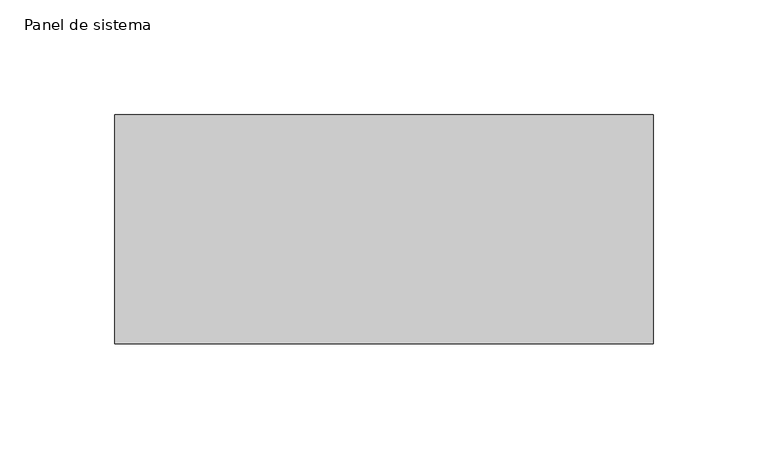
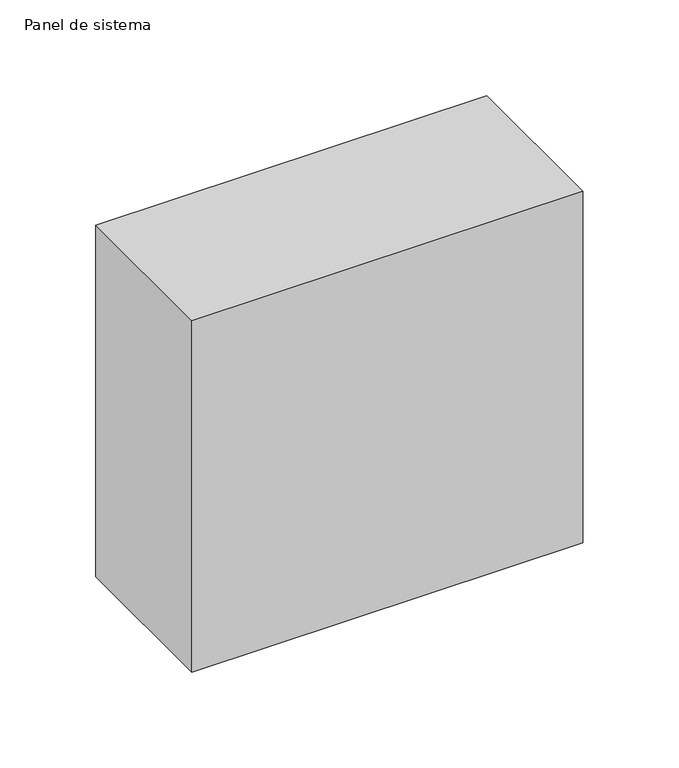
"""IFC4 building model written with IfcOpenShell, lengths in millimetres: plate geometry, Panel de sistema : PAVES."""

from ifc_helpers import new_model, si_unit, origin, origin_with_axes, place, context, project, spatial, polyline, outline, extrude, source, transform, mapped, element, save


def panel_de_sistema_f5b48c68(model_context):
    return source(origin(), model_context, "Body", "SweptSolid", [
        extrude(outline(polyline([(117.5, -50.0), (-117.5, -50.0), (-117.5, 50.0), (117.5, 50.0), (117.5, -50.0)])), origin_with_axes(), (0.0, 0.0, 1.0), 223.3333333),
    ])


if __name__ == "__main__":
    model = new_model("IFC4")
    model_context = context("Model", 3, world=origin())
    ifc_project = project(units=[si_unit("LENGTHUNIT", "METRE", prefix="MILLI")], contexts=[model_context])
    site = spatial("IfcSite", under=ifc_project)
    building = spatial("IfcBuilding", under=site)
    placement = place(None, origin())
    panel_de_sistema_shape = panel_de_sistema_f5b48c68(model_context)
    element("IfcPlate", 1, ObjectType="Panel de sistema : PAVES", at=placement, inside=building, context=model_context, shape_type="MappedRepresentation", body=[
        mapped(panel_de_sistema_shape, transform((0.0, 0.0, 0.0), x_axis=(1.0, 0.0, 0.0), y_axis=(0.0, 1.0, 0.0), z_axis=(0.0, 0.0, 1.0))),
    ])
    save(model, "model.ifc")
